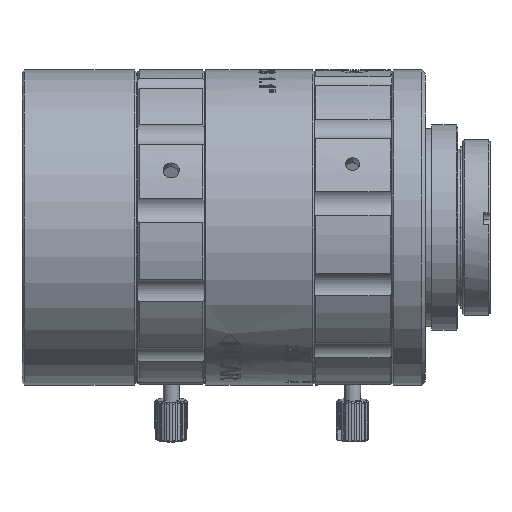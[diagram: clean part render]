
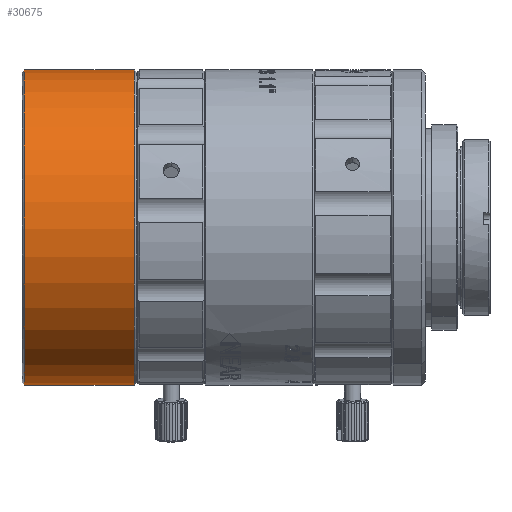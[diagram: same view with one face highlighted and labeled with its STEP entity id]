
A CAD part, front view. The second image highlights one B-rep face of the part: STEP entity #30675.
In plain terms, the highlighted cylindrical face has radius 19.5 mm (diameter 39 mm), a partial arc.
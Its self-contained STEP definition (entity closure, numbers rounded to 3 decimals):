
#187 = CARTESIAN_POINT ( 'NONE',  ( -42.55, 0.211, -19.499 ) ) ;
#683 = DIRECTION ( 'NONE',  ( -1., 0., 0. ) ) ;
#1298 = ORIENTED_EDGE ( 'NONE', *, *, #48551, .T. ) ;
#3418 = VERTEX_POINT ( 'NONE', #25336 ) ;
#6431 = ORIENTED_EDGE ( 'NONE', *, *, #40120, .F. ) ;
#6603 = EDGE_CURVE ( 'NONE', #48146, #3418, #11382, .T. ) ;
#6792 = FACE_OUTER_BOUND ( 'NONE', #42475, .T. ) ;
#7196 = VECTOR ( 'NONE', #683, 1000. ) ;
#9785 = DIRECTION ( 'NONE',  ( -1., 0., 0. ) ) ;
#10602 = VERTEX_POINT ( 'NONE', #19360 ) ;
#11382 = LINE ( 'NONE', #35423, #7196 ) ;
#13752 = ORIENTED_EDGE ( 'NONE', *, *, #44819, .T. ) ;
#13861 = DIRECTION ( 'NONE',  ( 0., -0.011, 1. ) ) ;
#14387 = DIRECTION ( 'NONE',  ( 0., 0.011, -1. ) ) ;
#15131 = LINE ( 'NONE', #34867, #34802 ) ;
#19360 = CARTESIAN_POINT ( 'NONE',  ( -56.15, 0.211, -19.499 ) ) ;
#20973 = CARTESIAN_POINT ( 'NONE',  ( -42.55, 0., 0. ) ) ;
#21561 = CARTESIAN_POINT ( 'NONE',  ( -42.55, -0.211, 19.499 ) ) ;
#21591 = VERTEX_POINT ( 'NONE', #187 ) ;
#22772 = CYLINDRICAL_SURFACE ( 'NONE', #27130, 19.5 ) ;
#25336 = CARTESIAN_POINT ( 'NONE',  ( -56.15, -0.211, 19.499 ) ) ;
#25982 = AXIS2_PLACEMENT_3D ( 'NONE', #20973, #9785, #13861 ) ;
#26535 = CARTESIAN_POINT ( 'NONE',  ( -56.15, 0., 0. ) ) ;
#27130 = AXIS2_PLACEMENT_3D ( 'NONE', #50160, #42035, #38210 ) ;
#30675 = ADVANCED_FACE ( 'NONE', ( #6792 ), #22772, .T. ) ;
#33832 = CIRCLE ( 'NONE', #35457, 19.5 ) ;
#34802 = VECTOR ( 'NONE', #49873, 1000. ) ;
#34867 = CARTESIAN_POINT ( 'NONE',  ( -53.122, 0.211, -19.499 ) ) ;
#34871 = CIRCLE ( 'NONE', #25982, 19.5 ) ;
#35423 = CARTESIAN_POINT ( 'NONE',  ( -53.122, -0.211, 19.499 ) ) ;
#35457 = AXIS2_PLACEMENT_3D ( 'NONE', #26535, #45819, #14387 ) ;
#38210 = DIRECTION ( 'NONE',  ( 0., -0.011, 1. ) ) ;
#40120 = EDGE_CURVE ( 'NONE', #21591, #10602, #15131, .T. ) ;
#41540 = ORIENTED_EDGE ( 'NONE', *, *, #6603, .T. ) ;
#42035 = DIRECTION ( 'NONE',  ( -1., 0., 0. ) ) ;
#42475 = EDGE_LOOP ( 'NONE', ( #6431, #13752, #41540, #1298 ) ) ;
#44819 = EDGE_CURVE ( 'NONE', #21591, #48146, #34871, .T. ) ;
#45819 = DIRECTION ( 'NONE',  ( 1., 0., 0. ) ) ;
#48146 = VERTEX_POINT ( 'NONE', #21561 ) ;
#48551 = EDGE_CURVE ( 'NONE', #3418, #10602, #33832, .T. ) ;
#49873 = DIRECTION ( 'NONE',  ( -1., 0., 0. ) ) ;
#50160 = CARTESIAN_POINT ( 'NONE',  ( -53.122, 0., 0. ) ) ;
